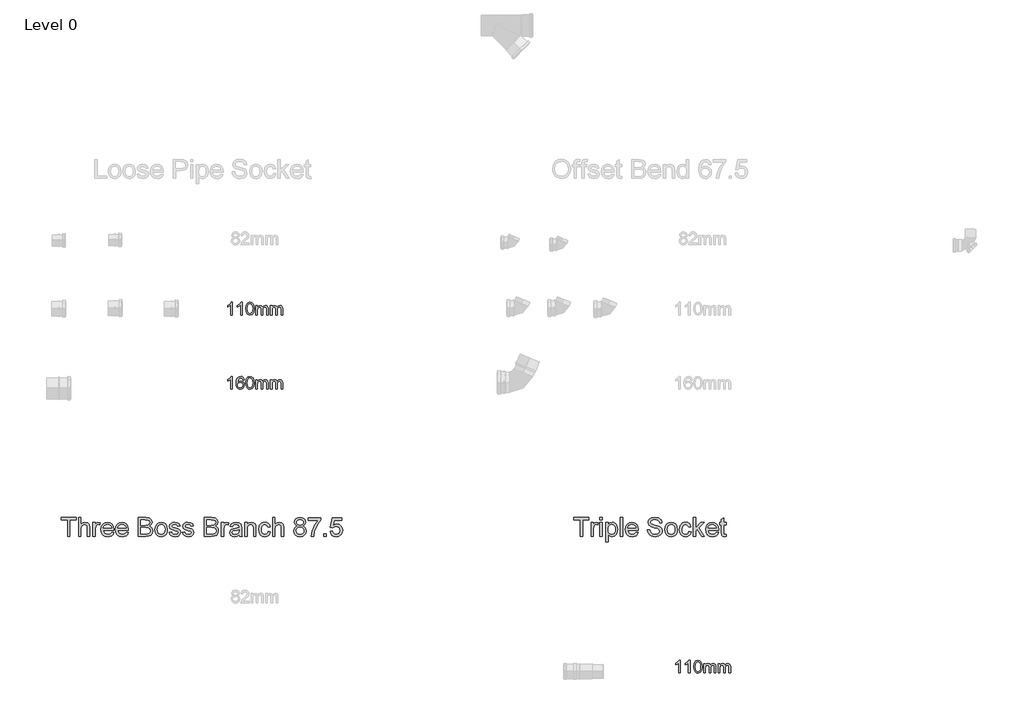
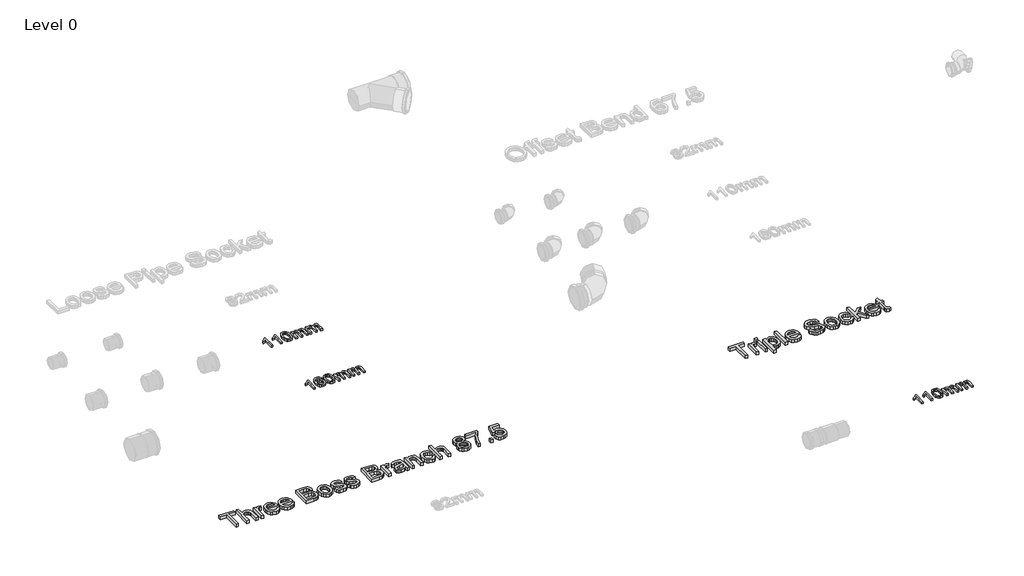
# One storey, part 2 of 23: 5 proxies.
"""IFC4 building model written with IfcOpenShell, lengths in millimetres."""

from ifc_helpers import new_model, si_unit, origin, origin_with_axes, place, context, project, spatial, polyline, outline, extrude, element, save

model = new_model("IFC4")

# Units and contexts
model_context = context("Model", 3, world=origin())
ifc_project = project(units=[si_unit("LENGTHUNIT", "METRE", prefix="MILLI")], contexts=[model_context])

# Site, building, storey
site = spatial("IfcSite", under=ifc_project)
building = spatial("IfcBuilding", under=site)
storey = spatial("IfcBuildingStorey", under=building, Name="Level 0", Elevation=0.0)

# Proxies
placement = place(None, origin())
element("IfcBuildingElementProxy", 1, Name="100mm Arial", ObjectType="100mm Arial", at=placement, inside=storey, context=model_context, shape_type="SweptSolid", body=[
    extrude(outline(polyline([(-20791.7293188, -162.2832696), (-20804.0370111, -162.2832696), (-20804.0370111, -85.5525004), (-20815.6956649, -93.8577889), (-20828.6523957, -100.0717312), (-20828.6523957, -88.4371158), (-20810.6115303, -76.9226927), (-20799.6620111, -63.8217312), (-20791.7293188, -63.8217312), (-20791.7293188, -162.2832696)])), origin_with_axes(), (0.0, 0.0, 1.0), 15.0),
    extrude(outline(polyline([(-20716.3447034, -162.2832696), (-20728.6523957, -162.2832696), (-20728.6523957, -85.5525004), (-20740.3110495, -93.8577889), (-20753.2677803, -100.0717312), (-20753.2677803, -88.4371158), (-20735.2269149, -76.9226927), (-20724.2773957, -63.8217312), (-20716.3447034, -63.8217312), (-20716.3447034, -162.2832696)])), origin_with_axes(), (0.0, 0.0, 1.0), 15.0),
    extrude(outline(polyline([(-20687.1139341, -113.8457696), (-20683.4961457, -85.5164427), (-20672.7509534, -69.1823081), (-20654.8062418, -63.8217312), (-20640.4312418, -66.9948081), (-20630.5033572, -76.1414427), (-20624.7341264, -90.7087504), (-20622.4985495, -113.8457696), (-20626.0802803, -142.0549042), (-20636.7894149, -158.4250965), (-20654.8062418, -163.8217312), (-20667.5947034, -161.4779812), (-20677.3062418, -154.4467312), (-20684.6620111, -137.7940869), (-20687.1139341, -113.8457696)]), holes=[polyline([(-20674.8062418, -113.8217312), (-20673.3639341, -133.1817071), (-20669.0370111, -144.386635), (-20662.5947034, -149.7321879), (-20654.8062418, -151.5140389), (-20647.0177803, -149.7261783), (-20640.5754726, -144.3625965), (-20636.2485495, -133.151659), (-20634.8062418, -113.8217312), (-20636.2004726, -94.8974523), (-20640.3831649, -83.605385), (-20646.8134534, -77.9984139), (-20654.9504726, -76.1294235), (-20662.6547995, -77.7760581), (-20668.8447034, -82.7159619), (-20673.3158572, -94.7111542), (-20674.8062418, -113.8217312)])]), origin_with_axes(), (0.0, 0.0, 1.0), 15.0),
    extrude(outline(polyline([(-20608.6523957, -162.2832696), (-20608.6523957, -89.9755773), (-20596.3447034, -89.9755773), (-20596.3447034, -101.8746158), (-20587.8831649, -92.1270196), (-20575.8398957, -88.4371158), (-20563.5081649, -92.199135), (-20556.7293188, -102.7400004), (-20547.1259534, -92.0128369), (-20534.9985495, -88.4371158), (-20525.7467466, -89.9244956), (-20518.9047995, -94.386635), (-20514.6770351, -101.9437264), (-20513.2677803, -112.7159619), (-20513.2677803, -162.2832696), (-20525.5754726, -162.2832696), (-20525.5754726, -118.0044235), (-20526.7172995, -107.7279812), (-20530.8519149, -102.667885), (-20537.8831649, -100.7448081), (-20549.9865303, -105.6726927), (-20554.8062418, -121.4659619), (-20554.8062418, -162.2832696), (-20567.1139341, -162.2832696), (-20567.1139341, -116.6342312), (-20569.9624918, -104.7111542), (-20579.3014341, -100.7448081), (-20588.4120111, -103.3890389), (-20594.4697034, -111.1294235), (-20596.3447034, -125.8169235), (-20596.3447034, -162.2832696), (-20608.6523957, -162.2832696)])), origin_with_axes(), (0.0, 0.0, 1.0), 15.0),
    extrude(outline(polyline([(-20494.8062418, -162.2832696), (-20494.8062418, -89.9755773), (-20482.4985495, -89.9755773), (-20482.4985495, -101.8746158), (-20474.0370111, -92.1270196), (-20461.9937418, -88.4371158), (-20449.6620111, -92.199135), (-20442.8831649, -102.7400004), (-20433.2797995, -92.0128369), (-20421.1523957, -88.4371158), (-20411.9005928, -89.9244956), (-20405.0586457, -94.386635), (-20400.8308813, -101.9437264), (-20399.4216264, -112.7159619), (-20399.4216264, -162.2832696), (-20411.7293188, -162.2832696), (-20411.7293188, -118.0044235), (-20412.8711457, -107.7279812), (-20417.0057611, -102.667885), (-20424.0370111, -100.7448081), (-20436.1403764, -105.6726927), (-20440.960088, -121.4659619), (-20440.960088, -162.2832696), (-20453.2677803, -162.2832696), (-20453.2677803, -116.6342312), (-20456.116338, -104.7111542), (-20465.4552803, -100.7448081), (-20474.5658572, -103.3890389), (-20480.6235495, -111.1294235), (-20482.4985495, -125.8169235), (-20482.4985495, -162.2832696), (-20494.8062418, -162.2832696)])), origin_with_axes(), (0.0, 0.0, 1.0), 15.0),
])
element("IfcBuildingElementProxy", 2, Name="100mm Arial", ObjectType="100mm Arial", at=placement, inside=storey, context=model_context, shape_type="SweptSolid", body=[
    extrude(outline(polyline([(-20791.7293188, -742.2832696), (-20804.0370111, -742.2832696), (-20804.0370111, -665.5525004), (-20815.6956649, -673.8577889), (-20828.6523957, -680.0717312), (-20828.6523957, -668.4371158), (-20810.6115303, -656.9226927), (-20799.6620111, -643.8217312), (-20791.7293188, -643.8217312), (-20791.7293188, -742.2832696)])), origin_with_axes(), (0.0, 0.0, 1.0), 15.0),
    extrude(outline(polyline([(-20699.4216264, -669.9755773), (-20711.7293188, -671.5140389), (-20716.3927803, -661.2496158), (-20728.7245111, -656.1294235), (-20739.8302803, -659.1101927), (-20748.2317226, -670.3000965), (-20751.7293188, -692.2351927), (-20740.8759534, -682.4154812), (-20727.4264341, -679.2063465), (-20716.0562418, -681.3998562), (-20706.5129726, -687.980385), (-20700.0406168, -698.0344715), (-20697.8831649, -710.6486542), (-20701.9456649, -727.6318273), (-20713.1235495, -739.6510581), (-20729.2533572, -743.8217312), (-20743.2166986, -741.0573081), (-20754.3374918, -732.7640389), (-20761.6121313, -718.1246158), (-20764.0370111, -696.3217312), (-20761.3447034, -671.80851), (-20753.2677803, -655.0476927), (-20742.2401361, -646.6282215), (-20727.9552803, -643.8217312), (-20717.1560014, -645.55851), (-20708.5081649, -650.7688465), (-20702.4504726, -659.0440869), (-20699.4216264, -669.9755773)]), holes=[polyline([(-20751.7293188, -710.4563465), (-20748.8807611, -721.1174042), (-20741.3086457, -728.8577889), (-20730.2148957, -731.5140389), (-20722.0929005, -730.1378369), (-20715.7076841, -726.0092312), (-20711.5700639, -719.5188465), (-20710.1908572, -711.0573081), (-20711.5520351, -702.9353129), (-20715.6355688, -696.7424042), (-20730.7197034, -691.5140389), (-20745.6115303, -696.7424042), (-20750.1998716, -702.7850725), (-20751.7293188, -710.4563465)])]), origin_with_axes(), (0.0, 0.0, 1.0), 15.0),
    extrude(outline(polyline([(-20687.1139341, -693.8457696), (-20683.4961457, -665.5164427), (-20672.7509534, -649.1823081), (-20654.8062418, -643.8217312), (-20640.4312418, -646.9948081), (-20630.5033572, -656.1414427), (-20624.7341264, -670.7087504), (-20622.4985495, -693.8457696), (-20626.0802803, -722.0549042), (-20636.7894149, -738.4250965), (-20654.8062418, -743.8217312), (-20667.5947034, -741.4779812), (-20677.3062418, -734.4467312), (-20684.6620111, -717.7940869), (-20687.1139341, -693.8457696)]), holes=[polyline([(-20674.8062418, -693.8217312), (-20673.3639341, -713.1817071), (-20669.0370111, -724.386635), (-20662.5947034, -729.7321879), (-20654.8062418, -731.5140389), (-20647.0177803, -729.7261783), (-20640.5754726, -724.3625965), (-20636.2485495, -713.151659), (-20634.8062418, -693.8217312), (-20636.2004726, -674.8974523), (-20640.3831649, -663.605385), (-20646.8134534, -657.9984139), (-20654.9504726, -656.1294235), (-20662.6547995, -657.7760581), (-20668.8447034, -662.7159619), (-20673.3158572, -674.7111542), (-20674.8062418, -693.8217312)])]), origin_with_axes(), (0.0, 0.0, 1.0), 15.0),
    extrude(outline(polyline([(-20608.6523957, -742.2832696), (-20608.6523957, -669.9755773), (-20596.3447034, -669.9755773), (-20596.3447034, -681.8746158), (-20587.8831649, -672.1270196), (-20575.8398957, -668.4371158), (-20563.5081649, -672.199135), (-20556.7293188, -682.7400004), (-20547.1259534, -672.0128369), (-20534.9985495, -668.4371158), (-20525.7467466, -669.9244956), (-20518.9047995, -674.386635), (-20514.6770351, -681.9437264), (-20513.2677803, -692.7159619), (-20513.2677803, -742.2832696), (-20525.5754726, -742.2832696), (-20525.5754726, -698.0044235), (-20526.7172995, -687.7279812), (-20530.8519149, -682.667885), (-20537.8831649, -680.7448081), (-20549.9865303, -685.6726927), (-20554.8062418, -701.4659619), (-20554.8062418, -742.2832696), (-20567.1139341, -742.2832696), (-20567.1139341, -696.6342312), (-20569.9624918, -684.7111542), (-20579.3014341, -680.7448081), (-20588.4120111, -683.3890389), (-20594.4697034, -691.1294235), (-20596.3447034, -705.8169235), (-20596.3447034, -742.2832696), (-20608.6523957, -742.2832696)])), origin_with_axes(), (0.0, 0.0, 1.0), 15.0),
    extrude(outline(polyline([(-20494.8062418, -742.2832696), (-20494.8062418, -669.9755773), (-20482.4985495, -669.9755773), (-20482.4985495, -681.8746158), (-20474.0370111, -672.1270196), (-20461.9937418, -668.4371158), (-20449.6620111, -672.199135), (-20442.8831649, -682.7400004), (-20433.2797995, -672.0128369), (-20421.1523957, -668.4371158), (-20411.9005928, -669.9244956), (-20405.0586457, -674.386635), (-20400.8308813, -681.9437264), (-20399.4216264, -692.7159619), (-20399.4216264, -742.2832696), (-20411.7293188, -742.2832696), (-20411.7293188, -698.0044235), (-20412.8711457, -687.7279812), (-20417.0057611, -682.667885), (-20424.0370111, -680.7448081), (-20436.1403764, -685.6726927), (-20440.960088, -701.4659619), (-20440.960088, -742.2832696), (-20453.2677803, -742.2832696), (-20453.2677803, -696.6342312), (-20456.116338, -684.7111542), (-20465.4552803, -680.7448081), (-20474.5658572, -683.3890389), (-20480.6235495, -691.1294235), (-20482.4985495, -705.8169235), (-20482.4985495, -742.2832696), (-20494.8062418, -742.2832696)])), origin_with_axes(), (0.0, 0.0, 1.0), 15.0),
])
element("IfcBuildingElementProxy", 3, Name="100mm Arial", ObjectType="100mm Arial", at=placement, inside=storey, context=model_context, shape_type="SweptSolid", body=[
    extrude(outline(polyline([(-17291.7293188, -2962.2832696), (-17304.0370111, -2962.2832696), (-17304.0370111, -2885.5525004), (-17315.6956649, -2893.8577889), (-17328.6523957, -2900.0717312), (-17328.6523957, -2888.4371158), (-17310.6115303, -2876.9226927), (-17299.6620111, -2863.8217312), (-17291.7293188, -2863.8217312), (-17291.7293188, -2962.2832696)])), origin_with_axes(), (0.0, 0.0, 1.0), 15.0),
    extrude(outline(polyline([(-17216.3447034, -2962.2832696), (-17228.6523957, -2962.2832696), (-17228.6523957, -2885.5525004), (-17240.3110495, -2893.8577889), (-17253.2677803, -2900.0717312), (-17253.2677803, -2888.4371158), (-17235.2269149, -2876.9226927), (-17224.2773957, -2863.8217312), (-17216.3447034, -2863.8217312), (-17216.3447034, -2962.2832696)])), origin_with_axes(), (0.0, 0.0, 1.0), 15.0),
    extrude(outline(polyline([(-17187.1139341, -2913.8457696), (-17183.4961457, -2885.5164427), (-17172.7509534, -2869.1823081), (-17154.8062418, -2863.8217312), (-17140.4312418, -2866.9948081), (-17130.5033572, -2876.1414427), (-17124.7341264, -2890.7087504), (-17122.4985495, -2913.8457696), (-17126.0802803, -2942.0549042), (-17136.7894149, -2958.4250965), (-17154.8062418, -2963.8217312), (-17167.5947034, -2961.4779812), (-17177.3062418, -2954.4467312), (-17184.6620111, -2937.7940869), (-17187.1139341, -2913.8457696)]), holes=[polyline([(-17174.8062418, -2913.8217312), (-17173.3639341, -2933.1817071), (-17169.0370111, -2944.386635), (-17162.5947034, -2949.7321879), (-17154.8062418, -2951.5140389), (-17147.0177803, -2949.7261783), (-17140.5754726, -2944.3625965), (-17136.2485495, -2933.151659), (-17134.8062418, -2913.8217312), (-17136.2004726, -2894.8974523), (-17140.3831649, -2883.605385), (-17146.8134534, -2877.9984139), (-17154.9504726, -2876.1294235), (-17162.6547995, -2877.7760581), (-17168.8447034, -2882.7159619), (-17173.3158572, -2894.7111542), (-17174.8062418, -2913.8217312)])]), origin_with_axes(), (0.0, 0.0, 1.0), 15.0),
    extrude(outline(polyline([(-17108.6523957, -2962.2832696), (-17108.6523957, -2889.9755773), (-17096.3447034, -2889.9755773), (-17096.3447034, -2901.8746158), (-17087.8831649, -2892.1270196), (-17075.8398957, -2888.4371158), (-17063.5081649, -2892.199135), (-17056.7293188, -2902.7400004), (-17047.1259534, -2892.0128369), (-17034.9985495, -2888.4371158), (-17025.7467466, -2889.9244956), (-17018.9047995, -2894.386635), (-17014.6770351, -2901.9437264), (-17013.2677803, -2912.7159619), (-17013.2677803, -2962.2832696), (-17025.5754726, -2962.2832696), (-17025.5754726, -2918.0044235), (-17026.7172995, -2907.7279812), (-17030.8519149, -2902.667885), (-17037.8831649, -2900.7448081), (-17049.9865303, -2905.6726927), (-17054.8062418, -2921.4659619), (-17054.8062418, -2962.2832696), (-17067.1139341, -2962.2832696), (-17067.1139341, -2916.6342312), (-17069.9624918, -2904.7111542), (-17079.3014341, -2900.7448081), (-17088.4120111, -2903.3890389), (-17094.4697034, -2911.1294235), (-17096.3447034, -2925.8169235), (-17096.3447034, -2962.2832696), (-17108.6523957, -2962.2832696)])), origin_with_axes(), (0.0, 0.0, 1.0), 15.0),
    extrude(outline(polyline([(-16994.8062418, -2962.2832696), (-16994.8062418, -2889.9755773), (-16982.4985495, -2889.9755773), (-16982.4985495, -2901.8746158), (-16974.0370111, -2892.1270196), (-16961.9937418, -2888.4371158), (-16949.6620111, -2892.199135), (-16942.8831649, -2902.7400004), (-16933.2797995, -2892.0128369), (-16921.1523957, -2888.4371158), (-16911.9005928, -2889.9244956), (-16905.0586457, -2894.386635), (-16900.8308813, -2901.9437264), (-16899.4216264, -2912.7159619), (-16899.4216264, -2962.2832696), (-16911.7293188, -2962.2832696), (-16911.7293188, -2918.0044235), (-16912.8711457, -2907.7279812), (-16917.0057611, -2902.667885), (-16924.0370111, -2900.7448081), (-16936.1403764, -2905.6726927), (-16940.960088, -2921.4659619), (-16940.960088, -2962.2832696), (-16953.2677803, -2962.2832696), (-16953.2677803, -2916.6342312), (-16956.116338, -2904.7111542), (-16965.4552803, -2900.7448081), (-16974.5658572, -2903.3890389), (-16980.6235495, -2911.1294235), (-16982.4985495, -2925.8169235), (-16982.4985495, -2962.2832696), (-16994.8062418, -2962.2832696)])), origin_with_axes(), (0.0, 0.0, 1.0), 15.0),
])
element("IfcBuildingElementProxy", 4, Name="150mm Arial", ObjectType="150mm Arial", at=placement, inside=storey, context=model_context, shape_type="SweptSolid", body=[
    extrude(outline(polyline([(-22080.2202973, -1894.7854781), (-22080.2202973, -1765.5547089), (-22128.6818358, -1765.5547089), (-22128.6818358, -1747.0931704), (-22013.2972204, -1747.0931704), (-22013.2972204, -1765.5547089), (-22061.7587589, -1765.5547089), (-22061.7587589, -1894.7854781), (-22080.2202973, -1894.7854781)])), origin_with_axes(), (0.0, 0.0, 1.0), 25.0),
    extrude(outline(polyline([(-21994.835682, -1894.7854781), (-21994.835682, -1747.0931704), (-21976.3741435, -1747.0931704), (-21976.3741435, -1801.396055), (-21961.9781098, -1788.3611992), (-21944.2467397, -1784.0162473), (-21923.5135666, -1788.7578339), (-21910.929432, -1801.864805), (-21907.1433743, -1826.1316319), (-21907.1433743, -1894.7854781), (-21925.6049127, -1894.7854781), (-21925.6049127, -1828.0426896), (-21927.0742637, -1816.4861992), (-21931.4823166, -1808.5715358), (-21938.585682, -1804.0012233), (-21948.1409704, -1802.4777858), (-21963.2671723, -1806.5883627), (-21973.3633262, -1817.7301896), (-21976.3741435, -1837.1652858), (-21976.3741435, -1894.7854781), (-21994.835682, -1894.7854781)])), origin_with_axes(), (0.0, 0.0, 1.0), 25.0),
    extrude(outline(polyline([(-21881.7587589, -1894.7854781), (-21881.7587589, -1786.3239396), (-21865.6049127, -1786.3239396), (-21865.6049127, -1802.3696127), (-21854.1385666, -1787.5859589), (-21842.600105, -1784.0162473), (-21824.0664512, -1789.7133627), (-21830.2323166, -1806.2638435), (-21843.2130858, -1802.4777858), (-21853.6517877, -1806.1196127), (-21860.304432, -1816.2157665), (-21863.2972204, -1837.7782665), (-21863.2972204, -1894.7854781), (-21881.7587589, -1894.7854781)])), origin_with_axes(), (0.0, 0.0, 1.0), 25.0),
    extrude(outline(polyline([(-21736.5904897, -1862.4777858), (-21718.4895281, -1864.7854781), (-21725.0114632, -1878.4243002), (-21735.4186147, -1888.6196127), (-21749.4766074, -1894.974781), (-21766.9510666, -1897.0931704), (-21788.6127252, -1893.4378218), (-21805.2803935, -1882.4717762), (-21815.9083983, -1864.9071728), (-21819.4510666, -1841.4561512), (-21815.8723406, -1817.2163675), (-21805.1361627, -1799.0883627), (-21788.693855, -1787.7842762), (-21767.9967397, -1784.0162473), (-21747.9441555, -1787.7752617), (-21731.9210185, -1799.052305), (-21721.4147084, -1817.1442521), (-21717.912605, -1841.3479781), (-21718.0207781, -1846.3239396), (-21800.9895281, -1846.3239396), (-21797.7939151, -1860.1430502), (-21790.3705377, -1870.302305), (-21779.6568959, -1876.5493002), (-21766.5904897, -1878.6316319), (-21748.4895281, -1874.7734589), (-21736.5904897, -1862.4777858)]), holes=[polyline([(-21800.9895281, -1827.8624012), (-21736.3741435, -1827.8624012), (-21738.8711387, -1818.1087954), (-21743.7659704, -1811.1316319), (-21754.5291916, -1804.6412473), (-21768.068855, -1802.4777858), (-21780.5132661, -1804.2040478), (-21790.80323, -1809.3828339), (-21797.9561747, -1817.4552497), (-21800.9895281, -1827.8624012)])]), origin_with_axes(), (0.0, 0.0, 1.0), 25.0),
    extrude(outline(polyline([(-21623.5135666, -1862.4777858), (-21605.412605, -1864.7854781), (-21611.9345401, -1878.4243002), (-21622.3416916, -1888.6196127), (-21636.3996844, -1894.974781), (-21653.8741435, -1897.0931704), (-21675.5358022, -1893.4378218), (-21692.2034704, -1882.4717762), (-21702.8314752, -1864.9071728), (-21706.3741435, -1841.4561512), (-21702.7954175, -1817.2163675), (-21692.0592397, -1799.0883627), (-21675.616932, -1787.7842762), (-21654.9198166, -1784.0162473), (-21634.8672324, -1787.7752617), (-21618.8440954, -1799.052305), (-21608.3377853, -1817.1442521), (-21604.835682, -1841.3479781), (-21604.943855, -1846.3239396), (-21687.912605, -1846.3239396), (-21684.7169921, -1860.1430502), (-21677.2936147, -1870.302305), (-21666.5799728, -1876.5493002), (-21653.5135666, -1878.6316319), (-21635.412605, -1874.7734589), (-21623.5135666, -1862.4777858)]), holes=[polyline([(-21687.912605, -1827.8624012), (-21623.2972204, -1827.8624012), (-21625.7942156, -1818.1087954), (-21630.6890473, -1811.1316319), (-21641.4522685, -1804.6412473), (-21654.991932, -1802.4777858), (-21667.436343, -1804.2040478), (-21677.726307, -1809.3828339), (-21684.8792517, -1817.4552497), (-21687.912605, -1827.8624012)])]), origin_with_axes(), (0.0, 0.0, 1.0), 25.0),
    extrude(outline(polyline([(-21526.3741435, -1894.7854781), (-21526.3741435, -1747.0931704), (-21470.0159704, -1747.0931704), (-21442.413807, -1751.4381223), (-21433.1379656, -1756.950442), (-21426.11573, -1764.7974973), (-21420.2202973, -1783.6917281), (-21425.17823, -1800.9453339), (-21440.1602012, -1814.0162473), (-21429.6989632, -1819.4789877), (-21421.9690954, -1827.7902858), (-21417.1959584, -1838.4002617), (-21415.6049127, -1850.7590358), (-21419.9498647, -1870.6087954), (-21430.7130858, -1884.7434108), (-21446.7767877, -1892.2434108), (-21470.4486627, -1894.7854781), (-21526.3741435, -1894.7854781)]), holes=[polyline([(-21507.912605, -1876.3239396), (-21470.0520281, -1876.3239396), (-21456.350105, -1875.6027858), (-21444.757557, -1871.5823531), (-21437.0772685, -1863.3792281), (-21434.0664512, -1850.9393242), (-21437.600105, -1836.5883627), (-21449.0484223, -1828.0246608), (-21471.8549127, -1825.5547089), (-21507.912605, -1825.5547089), (-21507.912605, -1876.3239396)]), polyline([(-21507.912605, -1807.0931704), (-21474.1986627, -1807.0931704), (-21454.5111627, -1805.5066319), (-21442.6662108, -1798.6736992), (-21438.6818358, -1786.6484589), (-21442.3957781, -1774.6051896), (-21453.0327973, -1767.4837954), (-21476.7587589, -1765.5547089), (-21507.912605, -1765.5547089), (-21507.912605, -1807.0931704)])]), origin_with_axes(), (0.0, 0.0, 1.0), 25.0),
    extrude(outline(polyline([(-21397.1433743, -1840.5547089), (-21393.1499848, -1814.4038675), (-21381.1698166, -1796.0234589), (-21366.3681339, -1787.0180502), (-21348.6457781, -1784.0162473), (-21329.2512469, -1787.6715959), (-21313.7599608, -1798.6376415), (-21303.6052132, -1816.0489997), (-21300.2202973, -1839.0402858), (-21301.7166916, -1857.6911271), (-21306.2058743, -1871.8888435), (-21313.5571363, -1882.5213555), (-21323.6397685, -1890.4765839), (-21335.6154296, -1895.4390238), (-21348.6457781, -1897.0931704), (-21368.2746844, -1893.4513435), (-21383.7479416, -1882.5258627), (-21393.7945161, -1864.7494204), (-21397.1433743, -1840.5547089)]), holes=[polyline([(-21378.6818358, -1840.5186512), (-21376.5454175, -1857.2268843), (-21370.1361627, -1869.13043), (-21360.49073, -1876.2563314), (-21348.6457781, -1878.6316319), (-21336.8549127, -1876.2428098), (-21327.2275089, -1869.0763435), (-21320.8182541, -1857.0150454), (-21318.6818358, -1839.9417281), (-21320.8317757, -1823.7202738), (-21327.2815954, -1811.9789877), (-21336.9225209, -1804.8530863), (-21348.6457781, -1802.4777858), (-21360.49073, -1804.8440718), (-21370.1361627, -1811.94293), (-21376.5454175, -1823.8194324), (-21378.6818358, -1840.5186512)])]), origin_with_axes(), (0.0, 0.0, 1.0), 25.0),
    extrude(outline(polyline([(-21286.3741435, -1862.4777858), (-21267.912605, -1860.1700935), (-21265.0009464, -1868.0667281), (-21259.366932, -1873.8720165), (-21239.787605, -1878.6316319), (-21220.9654897, -1874.2686512), (-21214.835682, -1864.0282665), (-21221.0015473, -1855.7349973), (-21240.0039512, -1850.4705742), (-21267.804432, -1841.4381223), (-21279.9378454, -1830.8912473), (-21284.0664512, -1815.9994204), (-21280.7491435, -1802.2434108), (-21271.6986627, -1791.7325935), (-21259.9618839, -1786.2698531), (-21244.0784704, -1784.0162473), (-21221.6145281, -1787.6400454), (-21207.335682, -1797.4477377), (-21200.9895281, -1814.0162473), (-21219.4510666, -1816.3239396), (-21226.3921723, -1806.1376415), (-21242.6361627, -1802.4777858), (-21260.304432, -1805.9753819), (-21265.6049127, -1814.1244204), (-21263.4053935, -1819.4970165), (-21256.5183743, -1823.5715358), (-21240.616932, -1827.5018242), (-21213.5195762, -1836.1917281), (-21200.9354416, -1846.0354781), (-21196.3741435, -1862.0811512), (-21201.7287108, -1879.7494204), (-21217.179432, -1892.56793), (-21240.0400089, -1897.0931704), (-21258.6547925, -1894.91168), (-21272.2395281, -1888.3672089), (-21281.3080377, -1877.5318723), (-21286.3741435, -1862.4777858)])), origin_with_axes(), (0.0, 0.0, 1.0), 25.0),
    extrude(outline(polyline([(-21182.5279897, -1862.4777858), (-21164.0664512, -1860.1700935), (-21161.1547925, -1868.0667281), (-21155.5207781, -1873.8720165), (-21135.9414512, -1878.6316319), (-21117.1193358, -1874.2686512), (-21110.9895281, -1864.0282665), (-21117.1553935, -1855.7349973), (-21136.1577973, -1850.4705742), (-21163.9582781, -1841.4381223), (-21176.0916916, -1830.8912473), (-21180.2202973, -1815.9994204), (-21176.9029897, -1802.2434108), (-21167.8525089, -1791.7325935), (-21156.11573, -1786.2698531), (-21140.2323166, -1784.0162473), (-21117.7683743, -1787.6400454), (-21103.4895281, -1797.4477377), (-21097.1433743, -1814.0162473), (-21115.6049127, -1816.3239396), (-21122.5460185, -1806.1376415), (-21138.7900089, -1802.4777858), (-21156.4582781, -1805.9753819), (-21161.7587589, -1814.1244204), (-21159.5592397, -1819.4970165), (-21152.6722204, -1823.5715358), (-21136.7707781, -1827.5018242), (-21109.6734223, -1836.1917281), (-21097.0892877, -1846.0354781), (-21092.5279897, -1862.0811512), (-21097.882557, -1879.7494204), (-21113.3332781, -1892.56793), (-21136.193855, -1897.0931704), (-21154.8086387, -1894.91168), (-21168.3933743, -1888.3672089), (-21177.4618839, -1877.5318723), (-21182.5279897, -1862.4777858)])), origin_with_axes(), (0.0, 0.0, 1.0), 25.0),
    extrude(outline(polyline([(-21011.7587589, -1894.7854781), (-21011.7587589, -1747.0931704), (-20955.4005858, -1747.0931704), (-20927.7984223, -1751.4381223), (-20918.522581, -1756.950442), (-20911.5003454, -1764.7974973), (-20905.6049127, -1783.6917281), (-20910.5628454, -1800.9453339), (-20925.5448166, -1814.0162473), (-20915.0835786, -1819.4789877), (-20907.3537108, -1827.7902858), (-20902.5805738, -1838.4002617), (-20900.9895281, -1850.7590358), (-20905.33448, -1870.6087954), (-20916.0977012, -1884.7434108), (-20932.1614031, -1892.2434108), (-20955.8332781, -1894.7854781), (-21011.7587589, -1894.7854781)]), holes=[polyline([(-20993.2972204, -1876.3239396), (-20955.4366435, -1876.3239396), (-20941.7347204, -1875.6027858), (-20930.1421723, -1871.5823531), (-20922.4618839, -1863.3792281), (-20919.4510666, -1850.9393242), (-20922.9847204, -1836.5883627), (-20934.4330377, -1828.0246608), (-20957.2395281, -1825.5547089), (-20993.2972204, -1825.5547089), (-20993.2972204, -1876.3239396)]), polyline([(-20993.2972204, -1807.0931704), (-20959.5832781, -1807.0931704), (-20939.8957781, -1805.5066319), (-20928.0508262, -1798.6736992), (-20924.0664512, -1786.6484589), (-20927.7803935, -1774.6051896), (-20938.4174127, -1767.4837954), (-20962.1433743, -1765.5547089), (-20993.2972204, -1765.5547089), (-20993.2972204, -1807.0931704)])]), origin_with_axes(), (0.0, 0.0, 1.0), 25.0),
    extrude(outline(polyline([(-20877.912605, -1894.7854781), (-20877.912605, -1786.3239396), (-20861.7587589, -1786.3239396), (-20861.7587589, -1802.3696127), (-20850.2924127, -1787.5859589), (-20838.7539512, -1784.0162473), (-20820.2202973, -1789.7133627), (-20826.3861627, -1806.2638435), (-20839.366932, -1802.4777858), (-20849.8056339, -1806.1196127), (-20856.4582781, -1816.2157665), (-20859.4510666, -1837.7782665), (-20859.4510666, -1894.7854781), (-20877.912605, -1894.7854781)])), origin_with_axes(), (0.0, 0.0, 1.0), 25.0),
    extrude(outline(polyline([(-20739.4510666, -1880.9393242), (-20757.3537108, -1893.4513435), (-20777.131355, -1897.0931704), (-20792.5595401, -1894.9026656), (-20803.9402493, -1888.3311512), (-20810.9579776, -1878.3521848), (-20813.2972204, -1865.9393242), (-20809.7635666, -1851.3359589), (-20800.4787108, -1840.7349973), (-20787.5520281, -1834.677305), (-20771.5784704, -1831.9008627), (-20739.5592397, -1825.5547089), (-20739.4510666, -1821.4441319), (-20740.7221002, -1813.2049492), (-20744.5352012, -1807.8143242), (-20753.0628454, -1803.8119204), (-20764.943855, -1802.4777858), (-20783.6217397, -1806.0294685), (-20792.5279897, -1818.6316319), (-20810.9895281, -1816.3239396), (-20803.0027493, -1798.2950935), (-20786.9210185, -1787.7301896), (-20762.5640473, -1784.0162473), (-20740.1902493, -1787.2974973), (-20727.5520281, -1795.53668), (-20721.8909704, -1808.0667281), (-20720.9895281, -1824.2205742), (-20720.9895281, -1847.1893242), (-20720.0520281, -1879.2626415), (-20716.3741435, -1894.7854781), (-20734.835682, -1894.7854781), (-20739.4510666, -1880.9393242)]), holes=[polyline([(-20739.4510666, -1844.0162473), (-20769.2347204, -1849.677305), (-20785.1181339, -1852.6700935), (-20792.3116435, -1857.5378819), (-20794.835682, -1864.6412473), (-20789.3368839, -1874.6292281), (-20773.2010666, -1878.6316319), (-20754.523182, -1874.2145646), (-20742.4799127, -1863.5234589), (-20739.5592397, -1849.2446127), (-20739.4510666, -1844.0162473)])]), origin_with_axes(), (0.0, 0.0, 1.0), 25.0),
    extrude(outline(polyline([(-20695.6049127, -1894.7854781), (-20695.6049127, -1786.3239396), (-20677.1433743, -1786.3239396), (-20677.1433743, -1801.4681704), (-20663.0267877, -1788.3792281), (-20643.7539512, -1784.0162473), (-20626.320057, -1787.5318723), (-20614.4210185, -1796.7626415), (-20608.8861627, -1810.3383627), (-20607.912605, -1828.1869204), (-20607.912605, -1894.7854781), (-20626.3741435, -1894.7854781), (-20626.3741435, -1830.6749012), (-20628.5015473, -1814.3407665), (-20636.0195762, -1805.7049492), (-20648.693855, -1802.4777858), (-20659.5066555, -1804.2896848), (-20668.7239031, -1809.7253819), (-20675.0385065, -1820.2271848), (-20677.1433743, -1837.2374012), (-20677.1433743, -1894.7854781), (-20695.6049127, -1894.7854781)])), origin_with_axes(), (0.0, 0.0, 1.0), 25.0),
    extrude(outline(polyline([(-20513.2972204, -1855.5547089), (-20494.835682, -1857.8624012), (-20499.9829175, -1874.2821728), (-20509.6553935, -1886.6905262), (-20522.9426531, -1894.4925093), (-20538.9342397, -1897.0931704), (-20558.5721603, -1893.4648651), (-20573.92823, -1882.5799492), (-20583.8395882, -1864.9161872), (-20587.1433743, -1840.9513435), (-20581.5003454, -1810.2842762), (-20574.3789512, -1798.7863795), (-20564.3008262, -1790.5787473), (-20552.2440353, -1785.6568723), (-20539.1866435, -1784.0162473), (-20523.5871844, -1786.2698531), (-20511.11573, -1793.0306704), (-20502.1689151, -1803.9381223), (-20497.1433743, -1818.6316319), (-20515.6049127, -1820.9393242), (-20524.1686147, -1807.1111992), (-20539.0424127, -1802.4777858), (-20550.9730017, -1804.7584348), (-20560.4426531, -1811.6003819), (-20566.6220401, -1823.3732185), (-20568.6818358, -1840.4465358), (-20566.6671122, -1857.7497209), (-20560.6229416, -1869.5631223), (-20551.3245642, -1876.3645045), (-20539.5472204, -1878.6316319), (-20529.9874247, -1877.2163675), (-20522.1493839, -1872.9705742), (-20516.4477613, -1865.786079), (-20513.2972204, -1855.5547089)])), origin_with_axes(), (0.0, 0.0, 1.0), 25.0),
    extrude(outline(polyline([(-20478.6818358, -1894.7854781), (-20478.6818358, -1747.0931704), (-20460.2202973, -1747.0931704), (-20460.2202973, -1801.396055), (-20445.8242637, -1788.3611992), (-20428.0928935, -1784.0162473), (-20407.3597204, -1788.7578339), (-20394.7755858, -1801.864805), (-20390.9895281, -1826.1316319), (-20390.9895281, -1894.7854781), (-20409.4510666, -1894.7854781), (-20409.4510666, -1828.0426896), (-20410.9204175, -1816.4861992), (-20415.3284704, -1808.5715358), (-20422.4318358, -1804.0012233), (-20431.9871243, -1802.4777858), (-20447.1133262, -1806.5883627), (-20457.20948, -1817.7301896), (-20460.2202973, -1837.1652858), (-20460.2202973, -1894.7854781), (-20478.6818358, -1894.7854781)])), origin_with_axes(), (0.0, 0.0, 1.0), 25.0),
    extrude(outline(polyline([(-20285.6289512, -1813.4393242), (-20302.4498647, -1801.9729781), (-20307.912605, -1784.1244204), (-20304.9378454, -1769.692329), (-20296.0135666, -1757.7662473), (-20282.1403695, -1749.7614396), (-20264.318855, -1747.0931704), (-20246.3891675, -1749.8245406), (-20232.335682, -1758.0186512), (-20223.2491435, -1770.1340358), (-20220.2202973, -1784.6292281), (-20225.6109223, -1802.0270646), (-20241.9630858, -1813.4393242), (-20230.6004055, -1819.294192), (-20222.3296723, -1827.9164877), (-20217.2861026, -1838.8915478), (-20215.6049127, -1851.8047089), (-20218.9402493, -1869.4549492), (-20228.9462589, -1884.0402858), (-20244.39698, -1893.8299492), (-20264.0664512, -1897.0931704), (-20283.7359223, -1893.8164276), (-20299.1866435, -1883.9861992), (-20309.1926531, -1869.2611391), (-20312.5279897, -1851.2999012), (-20310.7791916, -1837.8864396), (-20305.5327973, -1826.8527858), (-20297.0592397, -1818.5775454), (-20285.6289512, -1813.4393242)]), holes=[polyline([(-20294.0664512, -1850.6508627), (-20290.9835185, -1864.5511031), (-20280.0760666, -1874.9537473), (-20263.9222204, -1878.6316319), (-20251.3561147, -1876.6980382), (-20241.9270281, -1870.8972569), (-20236.0315954, -1862.1127016), (-20234.0664512, -1851.2277858), (-20236.0946964, -1840.1580742), (-20242.179432, -1831.1797089), (-20251.8248647, -1825.2301896), (-20264.5352012, -1823.2470165), (-20276.9255257, -1825.2031464), (-20286.2599608, -1831.0715358), (-20292.1148286, -1839.8786271), (-20294.0664512, -1850.6508627)]), polyline([(-20289.4510666, -1784.6652858), (-20287.8149488, -1792.72418), (-20282.9065954, -1799.1604781), (-20274.8702372, -1803.3792281), (-20263.850105, -1804.7854781), (-20253.0868839, -1803.3882425), (-20245.1722204, -1799.1965358), (-20240.304432, -1792.9765839), (-20238.6818358, -1785.4946127), (-20240.3585185, -1777.7286872), (-20245.3885666, -1771.3059108), (-20253.4114031, -1766.9925093), (-20264.0664512, -1765.5547089), (-20274.7891074, -1766.9609589), (-20282.7984223, -1771.1797089), (-20287.7879055, -1777.3636031), (-20289.4510666, -1784.6652858)])]), origin_with_axes(), (0.0, 0.0, 1.0), 25.0),
    extrude(outline(polyline([(-20199.4510666, -1767.8624012), (-20199.4510666, -1749.4008627), (-20102.5279897, -1749.4008627), (-20102.5279897, -1764.3287473), (-20130.02198, -1804.0462954), (-20151.0616435, -1854.6532665), (-20157.912605, -1894.7854781), (-20176.3741435, -1894.7854781), (-20169.0364031, -1853.1388435), (-20148.898182, -1806.0655262), (-20120.9895281, -1767.8624012), (-20199.4510666, -1767.8624012)])), origin_with_axes(), (0.0, 0.0, 1.0), 25.0),
    extrude(outline(polyline([(-20077.1433743, -1894.7854781), (-20077.1433743, -1876.3239396), (-20058.6818358, -1876.3239396), (-20058.6818358, -1894.7854781), (-20077.1433743, -1894.7854781)])), origin_with_axes(), (0.0, 0.0, 1.0), 25.0),
    extrude(outline(polyline([(-20028.6818358, -1855.5547089), (-20010.2202973, -1853.2470165), (-20006.8308743, -1864.3302497), (-20000.9174127, -1872.2674492), (-19992.506956, -1877.0405863), (-19981.6265473, -1878.6316319), (-19968.3933743, -1876.4185911), (-19958.4775089, -1869.7794685), (-19952.2846002, -1859.4804901), (-19950.2202973, -1846.2878819), (-19952.1538911, -1833.8660069), (-19957.9546723, -1824.364805), (-19967.6677132, -1818.334156), (-19981.3380858, -1816.3239396), (-19997.5460185, -1819.5330742), (-20007.912605, -1827.8624012), (-20026.3741435, -1825.5547089), (-20010.2202973, -1749.4008627), (-19938.6818358, -1749.4008627), (-19938.6818358, -1767.8624012), (-19995.2924127, -1767.8624012), (-20003.1890473, -1808.5354781), (-19990.0009464, -1800.5306704), (-19976.1818358, -1797.8624012), (-19958.9327372, -1801.1706944), (-19944.6133262, -1811.0955742), (-19934.9724007, -1826.2217762), (-19931.7587589, -1845.1340358), (-19934.6523887, -1863.5955742), (-19943.3332781, -1879.3888435), (-19959.9558743, -1892.6670887), (-19981.6986627, -1897.0931704), (-19999.8311747, -1894.2491199), (-20014.2767877, -1885.7169685), (-20024.1791315, -1872.4883026), (-20028.6818358, -1855.5547089)])), origin_with_axes(), (0.0, 0.0, 1.0), 25.0),
])
element("IfcBuildingElementProxy", 5, Name="150mm Arial", ObjectType="150mm Arial", at=placement, inside=storey, context=model_context, shape_type="SweptSolid", body=[
    extrude(outline(polyline([(-18074.835682, -1894.7854781), (-18074.835682, -1765.5547089), (-18123.2972204, -1765.5547089), (-18123.2972204, -1747.0931704), (-18007.912605, -1747.0931704), (-18007.912605, -1765.5547089), (-18056.3741435, -1765.5547089), (-18056.3741435, -1894.7854781), (-18074.835682, -1894.7854781)])), origin_with_axes(), (0.0, 0.0, 1.0), 25.0),
    extrude(outline(polyline([(-17989.4510666, -1894.7854781), (-17989.4510666, -1786.3239396), (-17973.2972204, -1786.3239396), (-17973.2972204, -1802.3696127), (-17961.8308743, -1787.5859589), (-17950.2924127, -1784.0162473), (-17931.7587589, -1789.7133627), (-17937.9246243, -1806.2638435), (-17950.9053935, -1802.4777858), (-17961.3440954, -1806.1196127), (-17967.9967397, -1816.2157665), (-17970.9895281, -1837.7782665), (-17970.9895281, -1894.7854781), (-17989.4510666, -1894.7854781)])), origin_with_axes(), (0.0, 0.0, 1.0), 25.0),
    extrude(outline(polyline([(-17920.2202973, -1765.5547089), (-17920.2202973, -1747.0931704), (-17901.7587589, -1747.0931704), (-17901.7587589, -1765.5547089), (-17920.2202973, -1765.5547089)])), origin_with_axes(), (0.0, 0.0, 1.0), 25.0),
    extrude(outline(polyline([(-17920.2202973, -1894.7854781), (-17920.2202973, -1786.3239396), (-17901.7587589, -1786.3239396), (-17901.7587589, -1894.7854781), (-17920.2202973, -1894.7854781)])), origin_with_axes(), (0.0, 0.0, 1.0), 25.0),
    extrude(outline(polyline([(-17874.0664512, -1936.3239396), (-17874.0664512, -1786.3239396), (-17855.6049127, -1786.3239396), (-17855.6049127, -1804.4249012), (-17842.8404897, -1789.1184108), (-17825.6049127, -1784.0162473), (-17813.1199368, -1785.8011031), (-17802.2034704, -1791.1556704), (-17793.3152493, -1799.75543), (-17786.9150089, -1811.2758627), (-17781.7587589, -1839.7253819), (-17783.2145882, -1855.5141439), (-17787.5820762, -1869.6352377), (-17794.7214993, -1881.3720165), (-17804.4931339, -1890.0078339), (-17815.873843, -1895.3218363), (-17827.8404897, -1897.0931704), (-17843.9041916, -1892.3515839), (-17855.6049127, -1880.3624012), (-17855.6049127, -1936.3239396), (-17874.0664512, -1936.3239396)]), holes=[polyline([(-17855.6049127, -1841.4200935), (-17853.608218, -1857.9705742), (-17847.6181339, -1869.5450935), (-17838.7794921, -1876.3599973), (-17828.2371243, -1878.6316319), (-17817.5234824, -1876.2788675), (-17808.45948, -1869.2205742), (-17802.280093, -1857.2223771), (-17800.2202973, -1840.0499012), (-17802.2305137, -1823.5895646), (-17808.2611627, -1811.8527858), (-17817.0862829, -1804.8215358), (-17827.4799127, -1802.4777858), (-17837.9141074, -1804.9702738), (-17847.0772685, -1812.4477377), (-17853.4730017, -1824.6758026), (-17855.6049127, -1841.4200935)])]), origin_with_axes(), (0.0, 0.0, 1.0), 25.0),
    extrude(outline(polyline([(-17760.9895281, -1894.7854781), (-17760.9895281, -1747.0931704), (-17742.5279897, -1747.0931704), (-17742.5279897, -1894.7854781), (-17760.9895281, -1894.7854781)])), origin_with_axes(), (0.0, 0.0, 1.0), 25.0),
    extrude(outline(polyline([(-17638.898182, -1862.4777858), (-17620.7972204, -1864.7854781), (-17627.3191555, -1878.4243002), (-17637.726307, -1888.6196127), (-17651.7842997, -1894.974781), (-17669.2587589, -1897.0931704), (-17690.9204175, -1893.4378218), (-17707.5880858, -1882.4717762), (-17718.2160906, -1864.9071728), (-17721.7587589, -1841.4561512), (-17718.1800329, -1817.2163675), (-17707.443855, -1799.0883627), (-17691.0015473, -1787.7842762), (-17670.304432, -1784.0162473), (-17650.2518478, -1787.7752617), (-17634.2287108, -1799.052305), (-17623.7224007, -1817.1442521), (-17620.2202973, -1841.3479781), (-17620.3284704, -1846.3239396), (-17703.2972204, -1846.3239396), (-17700.1016074, -1860.1430502), (-17692.67823, -1870.302305), (-17681.9645882, -1876.5493002), (-17668.898182, -1878.6316319), (-17650.7972204, -1874.7734589), (-17638.898182, -1862.4777858)]), holes=[polyline([(-17703.2972204, -1827.8624012), (-17638.6818358, -1827.8624012), (-17641.178831, -1818.1087954), (-17646.0736627, -1811.1316319), (-17656.8368839, -1804.6412473), (-17670.3765473, -1802.4777858), (-17682.8209584, -1804.2040478), (-17693.1109223, -1809.3828339), (-17700.2638671, -1817.4552497), (-17703.2972204, -1827.8624012)])]), origin_with_axes(), (0.0, 0.0, 1.0), 25.0),
    extrude(outline(polyline([(-17548.6818358, -1844.0162473), (-17530.2202973, -1844.0162473), (-17524.2707781, -1862.4958146), (-17509.7395281, -1874.1785069), (-17487.600105, -1878.6316319), (-17468.3092397, -1875.2602377), (-17455.851307, -1865.9934108), (-17451.7587589, -1853.6075935), (-17454.8236627, -1842.0871608), (-17467.3717397, -1833.7037473), (-17494.2527493, -1826.6544685), (-17523.1890473, -1817.5499012), (-17538.8921723, -1803.8119204), (-17544.0664512, -1785.458555), (-17542.4663911, -1774.6457545), (-17537.6662108, -1764.5631223), (-17529.7921122, -1756.0174492), (-17518.9702973, -1749.8155262), (-17491.6025089, -1744.7854781), (-17462.3957781, -1750.0499012), (-17451.1998647, -1756.5493002), (-17442.9246243, -1765.5186512), (-17437.6872445, -1776.3990598), (-17435.6049127, -1788.6316319), (-17454.0664512, -1788.6316319), (-17457.4558743, -1777.6160069), (-17464.523182, -1769.6652858), (-17475.5658502, -1764.8515839), (-17490.881355, -1763.2470165), (-17506.5574368, -1764.833555), (-17517.3116435, -1769.5931704), (-17523.5315954, -1776.5973771), (-17525.6049127, -1784.9176896), (-17524.1355618, -1792.0120406), (-17519.7275089, -1797.7181704), (-17489.5832781, -1808.0306704), (-17456.9150089, -1817.2974973), (-17446.3906699, -1823.9952137), (-17439.0484223, -1832.2614396), (-17433.2972204, -1853.1388435), (-17434.9513671, -1864.5195526), (-17439.913807, -1875.22418), (-17447.9817156, -1884.4369204), (-17458.9522685, -1891.3419685), (-17486.8789512, -1897.0931704), (-17504.9663911, -1895.5426896), (-17519.8537108, -1890.8912473), (-17531.7121844, -1883.1208146), (-17540.7130858, -1872.2133627), (-17546.491331, -1858.9261031), (-17548.6818358, -1844.0162473)])), origin_with_axes(), (0.0, 0.0, 1.0), 25.0),
    extrude(outline(polyline([(-17412.5279897, -1840.5547089), (-17408.5346002, -1814.4038675), (-17396.554432, -1796.0234589), (-17381.7527493, -1787.0180502), (-17364.0303935, -1784.0162473), (-17344.6358622, -1787.6715959), (-17329.1445762, -1798.6376415), (-17318.9898286, -1816.0489997), (-17315.6049127, -1839.0402858), (-17317.101307, -1857.6911271), (-17321.5904897, -1871.8888435), (-17328.9417517, -1882.5213555), (-17339.0243839, -1890.4765839), (-17351.0000449, -1895.4390238), (-17364.0303935, -1897.0931704), (-17383.6592997, -1893.4513435), (-17399.132557, -1882.5258627), (-17409.1791315, -1864.7494204), (-17412.5279897, -1840.5547089)]), holes=[polyline([(-17394.0664512, -1840.5186512), (-17391.9300329, -1857.2268843), (-17385.5207781, -1869.13043), (-17375.8753454, -1876.2563314), (-17364.0303935, -1878.6316319), (-17352.2395281, -1876.2428098), (-17342.6121243, -1869.0763435), (-17336.2028695, -1857.0150454), (-17334.0664512, -1839.9417281), (-17336.2163911, -1823.7202738), (-17342.6662108, -1811.9789877), (-17352.3071363, -1804.8530863), (-17364.0303935, -1802.4777858), (-17375.8753454, -1804.8440718), (-17385.5207781, -1811.94293), (-17391.9300329, -1823.8194324), (-17394.0664512, -1840.5186512)])]), origin_with_axes(), (0.0, 0.0, 1.0), 25.0),
    extrude(outline(polyline([(-17225.6049127, -1855.5547089), (-17207.1433743, -1857.8624012), (-17212.2906098, -1874.2821728), (-17221.9630858, -1886.6905262), (-17235.2503454, -1894.4925093), (-17251.241932, -1897.0931704), (-17270.8798526, -1893.4648651), (-17286.2359223, -1882.5799492), (-17296.1472805, -1864.9161872), (-17299.4510666, -1840.9513435), (-17293.8080377, -1810.2842762), (-17286.6866435, -1798.7863795), (-17276.6085185, -1790.5787473), (-17264.5517276, -1785.6568723), (-17251.4943358, -1784.0162473), (-17235.8948767, -1786.2698531), (-17223.4234223, -1793.0306704), (-17214.4766074, -1803.9381223), (-17209.4510666, -1818.6316319), (-17227.912605, -1820.9393242), (-17236.476307, -1807.1111992), (-17251.350105, -1802.4777858), (-17263.280694, -1804.7584348), (-17272.7503454, -1811.6003819), (-17278.9297324, -1823.3732185), (-17280.9895281, -1840.4465358), (-17278.9748046, -1857.7497209), (-17272.9306339, -1869.5631223), (-17263.6322565, -1876.3645045), (-17251.8549127, -1878.6316319), (-17242.2951171, -1877.2163675), (-17234.4570762, -1872.9705742), (-17228.7554536, -1865.786079), (-17225.6049127, -1855.5547089)])), origin_with_axes(), (0.0, 0.0, 1.0), 25.0),
    extrude(outline(polyline([(-17190.9895281, -1894.7854781), (-17190.9895281, -1747.0931704), (-17172.5279897, -1747.0931704), (-17172.5279897, -1826.4561512), (-17131.1337589, -1786.3239396), (-17105.6049127, -1786.3239396), (-17147.5039512, -1826.9609589), (-17103.2972204, -1894.7854781), (-17124.8597204, -1894.7854781), (-17160.7371243, -1839.7974973), (-17172.5279897, -1851.2277858), (-17172.5279897, -1894.7854781), (-17190.9895281, -1894.7854781)])), origin_with_axes(), (0.0, 0.0, 1.0), 25.0),
    extrude(outline(polyline([(-17011.2058743, -1862.4777858), (-16993.1049127, -1864.7854781), (-16999.6268478, -1878.4243002), (-17010.0339993, -1888.6196127), (-17024.0919921, -1894.974781), (-17041.5664512, -1897.0931704), (-17063.2281098, -1893.4378218), (-17079.8957781, -1882.4717762), (-17090.5237829, -1864.9071728), (-17094.0664512, -1841.4561512), (-17090.4877252, -1817.2163675), (-17079.7515473, -1799.0883627), (-17063.3092397, -1787.7842762), (-17042.6121243, -1784.0162473), (-17022.5595401, -1787.7752617), (-17006.5364031, -1799.052305), (-16996.030093, -1817.1442521), (-16992.5279897, -1841.3479781), (-16992.6361627, -1846.3239396), (-17075.6049127, -1846.3239396), (-17072.4092997, -1860.1430502), (-17064.9859223, -1870.302305), (-17054.2722805, -1876.5493002), (-17041.2058743, -1878.6316319), (-17023.1049127, -1874.7734589), (-17011.2058743, -1862.4777858)]), holes=[polyline([(-17075.6049127, -1827.8624012), (-17010.9895281, -1827.8624012), (-17013.4865233, -1818.1087954), (-17018.381355, -1811.1316319), (-17029.1445762, -1804.6412473), (-17042.6842397, -1802.4777858), (-17055.1286507, -1804.2040478), (-17065.4186147, -1809.3828339), (-17072.5715594, -1817.4552497), (-17075.6049127, -1827.8624012)])]), origin_with_axes(), (0.0, 0.0, 1.0), 25.0),
    extrude(outline(polyline([(-16934.835682, -1879.3888435), (-16932.5279897, -1895.3263435), (-16946.3380858, -1897.0931704), (-16961.8068358, -1894.0282665), (-16969.523182, -1885.9874012), (-16971.7587589, -1865.0378819), (-16971.7587589, -1804.7854781), (-16985.6049127, -1804.7854781), (-16985.6049127, -1786.3239396), (-16971.7587589, -1786.3239396), (-16971.7587589, -1759.9657665), (-16953.2972204, -1749.1124012), (-16953.2972204, -1786.3239396), (-16934.835682, -1786.3239396), (-16934.835682, -1804.7854781), (-16953.2972204, -1804.7854781), (-16953.2972204, -1864.4970165), (-16952.3236627, -1874.0162473), (-16949.1686147, -1877.3876415), (-16942.8765473, -1878.6316319), (-16934.835682, -1879.3888435)])), origin_with_axes(), (0.0, 0.0, 1.0), 25.0),
])

save(model, "model.ifc")
